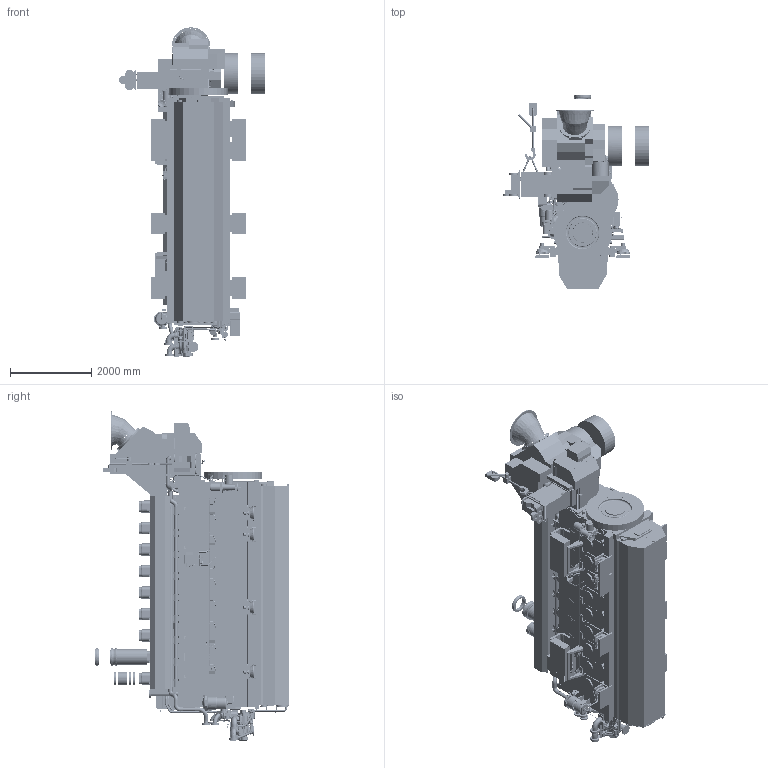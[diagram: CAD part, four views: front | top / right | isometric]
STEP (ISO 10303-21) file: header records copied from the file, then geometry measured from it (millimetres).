
FILE_DESCRIPTION((''),'2;1');
FILE_NAME('9M32E_FWS_STP_ASM','2015-11-16T',('petera8'),('Caterpillar Motoren GmbH & Co.KG'),'PRO/ENGINEER BY PARAMETRIC TECHNOLOGY CORPORATION, 2014200','PRO/ENGINEER BY PARAMETRIC TECHNOLOGY CORPORATION, 2014200','');
FILE_SCHEMA(('CONFIG_CONTROL_DESIGN'));
Products named in the file (6): 9M32E_FWS_STP_ENGINE_P01; 9M32E_FWS_STP_WET_SUMP_P01; 9M32E_FWS_STP_DRY_SUMP_P01; 9M32E_FWS_STP_RESI_MOUNT_P01; 9M32E_FWS_STP_REMOV_SPAC_P02; 9M32E_FWS_STP_ASM
Assembly tree (5 placements, depth 2):
  9M32E_FWS_STP_ASM
    9M32E_FWS_STP_ENGINE_P01
    9M32E_FWS_STP_WET_SUMP_P01
    9M32E_FWS_STP_DRY_SUMP_P01
    9M32E_FWS_STP_RESI_MOUNT_P01
    9M32E_FWS_STP_REMOV_SPAC_P02
Bounding box: 3608 x 4792 x 8127.3 mm (x, y, z)
Surface area: 211761076.8 mm2 (no closed solid volume)
Topology: 0 solids, 851 shells, 6183 faces, 27407 edges, 21467 vertices
Faces by surface type: plane 3041, cylinder 2133, bspline 499, torus 256, extrusion 115, cone 81, sphere 56, revolution 2
Entity records: 357668 total; most frequent: CARTESIAN_POINT 111067, DIRECTION 45260, ORIENTED_EDGE 38373, EDGE_CURVE 27353, VERTEX_POINT 21467, VECTOR 15454, LINE 15339, AXIS2_PLACEMENT_3D 14902
